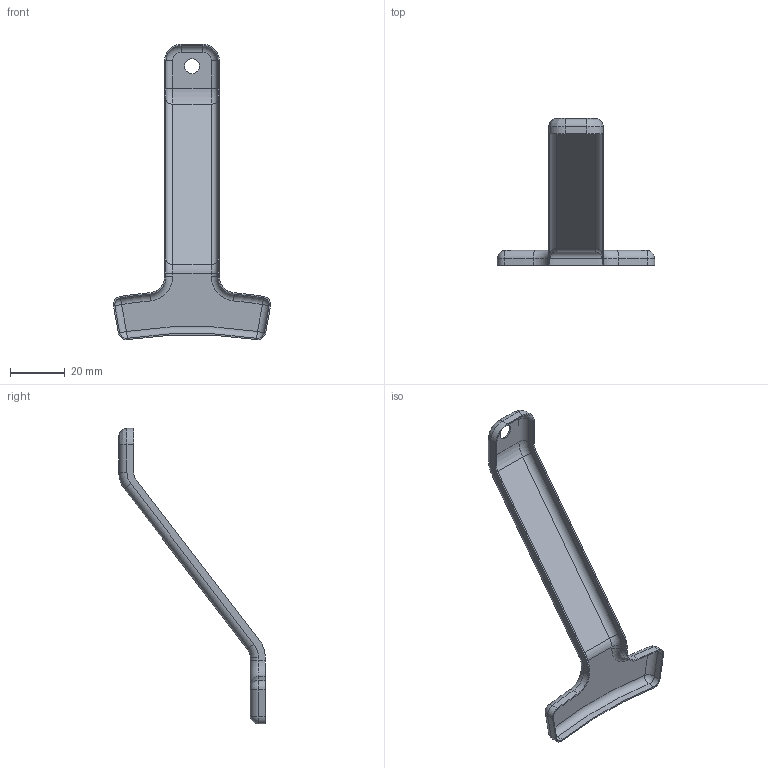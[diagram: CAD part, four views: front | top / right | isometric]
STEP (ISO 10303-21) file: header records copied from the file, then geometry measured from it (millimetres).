
FILE_DESCRIPTION(/* description */ (''),/* implementation_level */ '2;1');
FILE_NAME(/* name */ '2504_ePic_bracket_L2_HSide.stp',/* time_stamp */ '2025-05-05T16:27:47+02:00',/* author */ (''),/* organization */ (''),/* preprocessor_version */ 'ST-DEVELOPER v19.4',/* originating_system */ 'SIEMENS PLM Software NX2306.5001',/* authorisation */ '');
FILE_SCHEMA (('AP203_CONFIGURATION_CONTROLLED_3D_DESIGN_OF_MECHANICAL_PARTS_AND_ASSEMBLIES_MIM_LF { 1 0 10303 403 2 1 2}'));
Length unit declared in the file: millimetre
Products named in the file (1): ePic-Frame_L1toL2-Flange_hSide.v2_dwg_objects
Bounding box: 57.38 x 53.5 x 107.86 mm (x, y, z)
Volume: 2137.7 mm3; surface area: 8730.1 mm2
Topology: 1 solids, 1 shells, 99 faces, 243 edges, 138 vertices
Faces by surface type: cylinder 49, plane 20, torus 20, sphere 8, bspline 2
Full cylindrical faces by diameter (mm): 5.5 x1
Entity records: 2960 total; most frequent: DIRECTION 562, CARTESIAN_POINT 502, ORIENTED_EDGE 468, EDGE_CURVE 234, AXIS2_PLACEMENT_3D 230, VERTEX_POINT 138, CIRCLE 132, EDGE_LOOP 102
